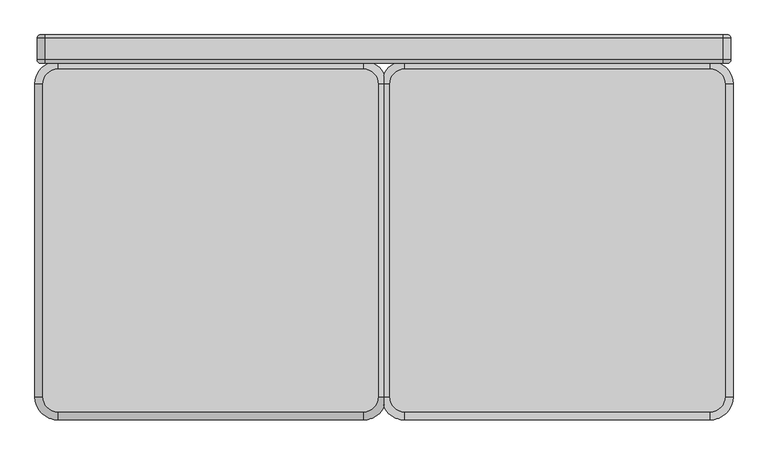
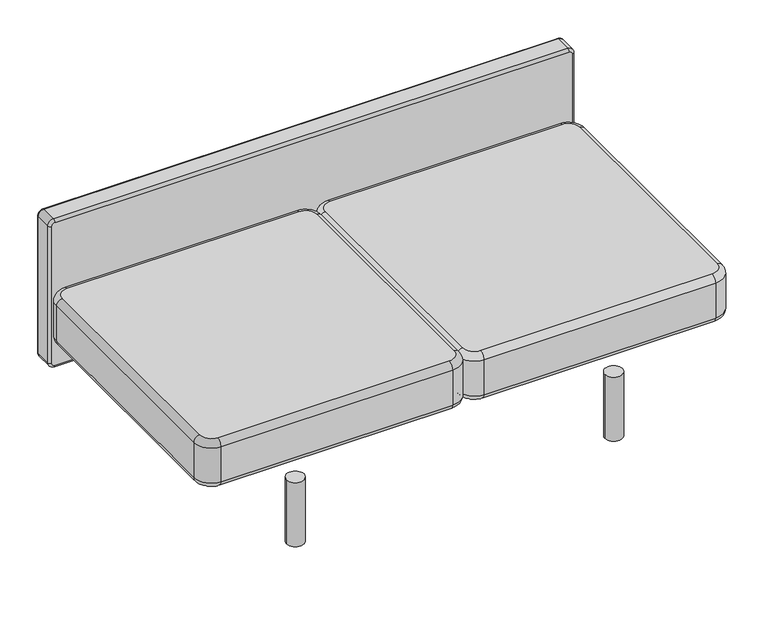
"""IFC4 building model written with IfcOpenShell, lengths in millimetres: furniture geometry, Fredericia - EJ220 Sofa 2 seater 76 - 2042 : Fredericia - EJ220 Sofa 2 seater 76 - 2042."""

import ifcopenshell
import ifcopenshell.guid

model = None  # the IFC model being written
_history = None  # IfcOwnerHistory: only IFC2X3 demands one
_inside = {}  # id of a spatial element -> (the spatial element, [elements in it])
_under = {}  # id of a project, library or spatial element -> (it, [spatial elements below it])
_declared = {}  # id of a project -> (the project, [libraries it declares])
_typed = {}  # id of a type object -> (the type object, [elements of that type])
_made_of = {}  # id of a material, layer set ... -> (it, [elements and type objects made of it])


def new_model(schema):
    """Start an empty IFC model of exactly this schema.

    Asked for "IFC4X3", IfcOpenShell would pick the latest addendum, in which some entities
    have other attributes; the version numbers below select the first issue.
    IFC2X3 requires an IfcOwnerHistory on every rooted entity: one is made here for all.
    """
    global model, _history
    if schema == "IFC4X3":
        model = ifcopenshell.file(schema_version=(4, 3, 0, 0))
    else:
        model = ifcopenshell.file(schema=schema)
    _inside.clear()
    _under.clear()
    _declared.clear()
    _typed.clear()
    _made_of.clear()
    _history = None
    if model.schema == "IFC2X3":
        org = make("IfcOrganization", Name="unknown")
        user = make(
            "IfcPersonAndOrganization",
            ThePerson=make("IfcPerson", FamilyName="unknown"),
            TheOrganization=org,
        )
        app = make(
            "IfcApplication",
            ApplicationDeveloper=org,
            Version="unknown",
            ApplicationFullName="unknown",
            ApplicationIdentifier="unknown",
        )
        _history = make(
            "IfcOwnerHistory",
            OwningUser=user,
            OwningApplication=app,
            ChangeAction="ADDED",
            CreationDate=0,
        )
    return model


def make(cls, **values):
    """One entity of the class cls with the attributes given. An attribute that is None is left unset."""
    return model.create_entity(
        cls, **{name: value for name, value in values.items() if value is not None}
    )


def rooted(cls, **values):
    """An entity with a GlobalId (a new one), such as an element, a storey or a relation."""
    return make(cls, GlobalId=ifcopenshell.guid.new(), OwnerHistory=_history, **values)


def si_unit(unit_type, name, prefix=None):
    """IfcSIUnit, for example si_unit("LENGTHUNIT", "METRE", prefix="MILLI")."""
    return make("IfcSIUnit", UnitType=unit_type, Prefix=prefix, Name=name)


def assignment(units):
    """IfcUnitAssignment: the units of a project."""
    return None if units is None else make("IfcUnitAssignment", Units=units)


def point(xyz):
    """IfcCartesianPoint."""
    return None if xyz is None else make("IfcCartesianPoint", Coordinates=xyz)


def direction(xyz):
    """IfcDirection."""
    return None if xyz is None else make("IfcDirection", DirectionRatios=xyz)


def frame(location, z_axis=None, x_axis=None):
    """IfcAxis2Placement3D, a coordinate frame: its origin and axes. An axis left out is left unset."""
    return make(
        "IfcAxis2Placement3D",
        Location=point(location),
        Axis=direction(z_axis),
        RefDirection=direction(x_axis),
    )


def frame_2d(location, x_axis=None):
    """IfcAxis2Placement2D, a coordinate frame in the plane: its origin and x axis."""
    return make(
        "IfcAxis2Placement2D", Location=point(location), RefDirection=direction(x_axis)
    )


def origin():
    """The frame at (0, 0, 0) with its axes left unset."""
    return frame((0.0, 0.0, 0.0))


def origin_with_axes():
    """The frame at (0, 0, 0) with the z axis (0, 0, 1) and the x axis (1, 0, 0) written out."""
    return frame((0.0, 0.0, 0.0), z_axis=(0.0, 0.0, 1.0), x_axis=(1.0, 0.0, 0.0))


def place(relative_to, where):
    """IfcLocalPlacement: puts the frame where relative to a parent placement (None: the world)."""
    return make(
        "IfcLocalPlacement", PlacementRelTo=relative_to, RelativePlacement=where
    )


def context(
    kind, dimensions, precision=None, world=None, true_north=None, identifier=None
):
    """IfcGeometricRepresentationContext, for example the 3D "Model" context."""
    return make(
        "IfcGeometricRepresentationContext",
        ContextIdentifier=identifier,
        ContextType=kind,
        CoordinateSpaceDimension=dimensions,
        Precision=precision,
        WorldCoordinateSystem=world,
        TrueNorth=true_north,
    )


def project(units=None, contexts=None):
    """IfcProject with its units and contexts."""
    return rooted(
        "IfcProject",
        Name="project",
        RepresentationContexts=contexts,
        UnitsInContext=assignment(units),
    )


def spatial(cls, under=None, at=None, **own):
    """A site, building, storey or space (cls), placed at a placement, below another one or the project."""
    s = rooted(cls, ObjectPlacement=at, **own)
    if under is not None:
        _under.setdefault(under.id(), (under, []))[1].append(s)
    return s


def circle_curve(where, radius):
    """IfcCircle in the frame where."""
    return make("IfcCircle", Position=where, Radius=radius)


def ellipse_curve(where, semi_axis1, semi_axis2):
    """IfcEllipse in the frame where."""
    return make(
        "IfcEllipse", Position=where, SemiAxis1=semi_axis1, SemiAxis2=semi_axis2
    )


def trimmed(basis, trim1, trim2, sense, master):
    """IfcTrimmedCurve: the piece of a basis curve between two trims."""
    return make(
        "IfcTrimmedCurve",
        BasisCurve=basis,
        Trim1=trim1,
        Trim2=trim2,
        SenseAgreement=sense,
        MasterRepresentation=master,
    )


def segment(curve, same_sense, transition):
    """IfcCompositeCurveSegment."""
    return make(
        "IfcCompositeCurveSegment",
        Transition=transition,
        SameSense=same_sense,
        ParentCurve=curve,
    )


def composite_curve(segments, self_intersect=None):
    """IfcCompositeCurve: segments joined end to end."""
    return make("IfcCompositeCurve", Segments=segments, SelfIntersect=self_intersect)


def outline(outer, holes=None, kind="AREA"):
    """IfcArbitraryClosedProfileDef: a profile drawn as a closed curve; with holes, ...WithVoids."""
    if holes is None:
        return make("IfcArbitraryClosedProfileDef", ProfileType=kind, OuterCurve=outer)
    return make(
        "IfcArbitraryProfileDefWithVoids",
        ProfileType=kind,
        OuterCurve=outer,
        InnerCurves=holes,
    )


def extrude(swept, where, along, depth):
    """IfcExtrudedAreaSolid: the profile swept, set in the frame where, extruded along a direction by depth."""
    return make(
        "IfcExtrudedAreaSolid",
        SweptArea=swept,
        Position=where,
        ExtrudedDirection=direction(along),
        Depth=depth,
    )


def shape(context_of_items, identifier, shape_type, items):
    """IfcShapeRepresentation: the items that make up one representation, for example the "Body"."""
    return make(
        "IfcShapeRepresentation",
        ContextOfItems=context_of_items,
        RepresentationIdentifier=identifier,
        RepresentationType=shape_type,
        Items=items,
    )


def source(mapping_origin, context_of_items, identifier, shape_type, items):
    """IfcRepresentationMap: a shape defined once, which mapped items show again and again."""
    return make(
        "IfcRepresentationMap",
        MappingOrigin=mapping_origin,
        MappedRepresentation=shape(context_of_items, identifier, shape_type, items),
    )


def transform(
    local_origin,
    x_axis=None,
    y_axis=None,
    z_axis=None,
    scale=None,
    scale2=None,
    scale3=None,
    uniform=True,
):
    """IfcCartesianTransformationOperator3D, or its non-uniform kind. x_axis, y_axis, z_axis: its Axis1, 2, 3."""
    if uniform:
        return make(
            "IfcCartesianTransformationOperator3D",
            Axis1=direction(x_axis),
            Axis2=direction(y_axis),
            LocalOrigin=point(local_origin),
            Scale=scale,
            Axis3=direction(z_axis),
        )
    return make(
        "IfcCartesianTransformationOperator3DnonUniform",
        Axis1=direction(x_axis),
        Axis2=direction(y_axis),
        LocalOrigin=point(local_origin),
        Scale=scale,
        Axis3=direction(z_axis),
        Scale2=scale2,
        Scale3=scale3,
    )


def mapped(mapping_source, mapping_target):
    """IfcMappedItem: shows the shape of a source again, moved by a transform."""
    return make(
        "IfcMappedItem", MappingSource=mapping_source, MappingTarget=mapping_target
    )


def made_of(thing, what):
    """Note that an element or type object is made of a material, layer set ...; save() writes the relation."""
    if what is not None:
        _made_of.setdefault(what.id(), (what, []))[1].append(thing)
    return thing


def element(
    cls,
    number,
    at=None,
    inside=None,
    cuts=None,
    type_object=None,
    material=None,
    context=None,
    identifier="Body",
    shape_type=None,
    held_by="IfcProductDefinitionShape",
    body=None,
    shapes=None,
    **own,
):
    """One element of the class cls, such as IfcWall. Its Tag is "e" and its number.

    at: its placement. inside: the storey or other place that contains it. cuts: it is an
    opening in that element (IfcRelVoidsElement). A single representation is given by context,
    identifier, shape_type and body (its items); several are given by shapes. held_by: the class
    of the entity that holds the representations. save() writes the other relations.
    """
    e = rooted(cls, Tag="e%d" % number, ObjectPlacement=at, **own)
    if body is not None:
        shapes = [shape(context, identifier, shape_type, body)]
    if shapes is not None:
        e.Representation = make(held_by, Representations=shapes)
    if inside is not None:
        _inside.setdefault(inside.id(), (inside, []))[1].append(e)
    if cuts is not None:
        rooted(
            "IfcRelVoidsElement", RelatingBuildingElement=cuts, RelatedOpeningElement=e
        )
    if type_object is not None:
        _typed.setdefault(type_object.id(), (type_object, []))[1].append(e)
    return made_of(e, material)


def aggregate(whole, parts):
    """IfcRelAggregates: a whole, such as a stair, and the parts it consists of."""
    return rooted("IfcRelAggregates", RelatingObject=whole, RelatedObjects=parts)


def save(model, path):
    """Write the relations noted so far, then the file.

    IfcRelAggregates (storeys below a building ...), IfcRelContainedInSpatialStructure (elements
    in a storey), IfcRelDefinesByType, IfcRelAssociatesMaterial and IfcRelDeclares: one each for
    every whole, place, type object, material and project.
    """
    for whole, parts in _under.values():
        aggregate(whole, parts)
    for where, things in _inside.values():
        rooted(
            "IfcRelContainedInSpatialStructure",
            RelatedElements=things,
            RelatingStructure=where,
        )
    for kind, things in _typed.values():
        rooted("IfcRelDefinesByType", RelatedObjects=things, RelatingType=kind)
    for what, things in _made_of.values():
        rooted("IfcRelAssociatesMaterial", RelatedObjects=things, RelatingMaterial=what)
    for by, libraries in _declared.values():
        rooted("IfcRelDeclares", RelatingContext=by, RelatedDefinitions=libraries)
    model.write(path)


def plane_surface(at):
    """IfcPlane: the flat surface through the origin of the frame at, square to its z axis."""
    return make("IfcPlane", Position=at)


def cylinder_surface(at, radius):
    """IfcCylindricalSurface: all points at the distance radius from the z axis of the frame at."""
    return make("IfcCylindricalSurface", Position=at, Radius=radius)


def revolved_surface(curve, axis_point, axis_direction):
    """IfcSurfaceOfRevolution: the curve turned about the line through axis_point along axis_direction."""
    return make(
        "IfcSurfaceOfRevolution",
        SweptCurve=make("IfcArbitraryOpenProfileDef", ProfileType="CURVE", Curve=curve),
        AxisPosition=make("IfcAxis1Placement", Location=point(axis_point), Axis=direction(axis_direction)),
    )


def advanced_brep(points, edges, surfaces, faces):
    """IfcAdvancedBrep: a solid bounded by faces that lie on surfaces and meet in shared edges.

    An edge is (start, end): straight between two places in points (the first is 0);
    or (start, end, curve); or (start, end, curve, False) where it runs against its curve.
    A face is (place in surfaces, loops), or (place, loops, False) where it looks against
    its surface's normal. A loop lists edges by number (the first is 1), with a minus sign
    where the edge is run from its end to its start. The first loop is the outer one.
    """
    corners = [point(p) for p in points]
    vertices = [make("IfcVertexPoint", VertexGeometry=c) for c in corners]
    made = []
    for start, end, *more in edges:
        made.append(
            make(
                "IfcEdgeCurve",
                EdgeStart=vertices[start],
                EdgeEnd=vertices[end],
                EdgeGeometry=more[0] if more else make("IfcPolyline", Points=[corners[start], corners[end]]),
                SameSense=more[1] if len(more) > 1 else True,
            )
        )
    hull = []
    for where, loops, *sense in faces:
        bounds = []
        for j, loop in enumerate(loops):
            ring = [make("IfcOrientedEdge", EdgeElement=made[abs(k) - 1], Orientation=k > 0) for k in loop]
            bounds.append(
                make(
                    "IfcFaceOuterBound" if j == 0 else "IfcFaceBound",
                    Bound=make("IfcEdgeLoop", EdgeList=ring),
                    Orientation=True,
                )
            )
        hull.append(make("IfcAdvancedFace", Bounds=bounds, FaceSurface=surfaces[where], SameSense=sense[0] if sense else True))
    return make("IfcAdvancedBrep", Outer=make("IfcClosedShell", CfsFaces=hull))


def furniture_254e2627(model_context):
    return source(origin(), model_context, "Body", "SolidModel", [
        advanced_brep(
        [(736.1484253, 743.0641303, 290.0), (736.1484253, 67.7, 290.0), (703.4806054, 35.0321801, 290.0), (45.0, 35.0321801, 290.0), (12.3321801, 67.7, 290.0), (12.3321801, 743.0641303, 290.0), (45.0, 775.7319503, 290.0), (703.4806054, 775.7319503, 290.0), (736.1484253, 67.7, 429.8211901), (736.1484253, 743.0641303, 429.8211901), (703.4806054, 775.7319503, 429.8211901), (45.0, 775.7319503, 429.8211901), (12.3321801, 743.0641303, 429.8211901), (12.3321801, 67.7, 429.8211901), (45.0, 35.0321801, 429.8211901), (703.4806054, 35.0321801, 429.8211901), (753.4806054, 743.0641303, 307.3273289), (753.4806054, 743.0641303, 412.4890101), (753.4806054, 67.7, 412.4890101), (753.4806054, 67.7, 307.3273289), (703.4806054, 17.7, 307.3273289), (703.4806054, 17.7, 412.4890101), (45.0, 17.7, 412.4890101), (45.0, 17.7, 307.3273289), (-5.0, 67.7, 307.3273289), (-5.0, 67.7, 412.4890101), (-5.0, 743.0641303, 412.4890101), (-5.0, 743.0641303, 307.3273289), (45.0, 793.0641303, 307.3273289), (45.0, 793.0641303, 412.4890101), (703.4806054, 793.0641303, 412.4890101), (703.4806054, 793.0641303, 307.3273289)],
        [
            (0, 1),
            (1, 2, circle_curve(frame((703.4806054, 67.7, 290.0), z_axis=(0.0, 0.0, -1.0), x_axis=(1.0, 0.0, 0.0)), 32.6678199)),
            (2, 3),
            (3, 4, circle_curve(frame((45.0, 67.7, 290.0), z_axis=(0.0, 0.0, -1.0), x_axis=(0.0, -1.0, 0.0)), 32.6678199)),
            (4, 5),
            (5, 6, circle_curve(frame((45.0, 743.0641303, 290.0), z_axis=(0.0, 0.0, -1.0), x_axis=(-1.0, 0.0, 0.0)), 32.6678199)),
            (6, 7),
            (7, 0, circle_curve(frame((703.4806054, 743.0641303, 290.0), z_axis=(0.0, 0.0, -1.0), x_axis=(0.0, 1.0, 0.0)), 32.6678199)),
            (8, 9),
            (9, 10, circle_curve(frame((703.4806054, 743.0641303, 429.8211901), z_axis=(0.0, 0.0, 1.0), x_axis=(0.0, 1.0, 0.0)), 32.6678199)),
            (10, 11),
            (11, 12, circle_curve(frame((45.0, 743.0641303, 429.8211901), z_axis=(0.0, 0.0, 1.0), x_axis=(-1.0, 0.0, 0.0)), 32.6678199)),
            (12, 13),
            (13, 14, circle_curve(frame((45.0, 67.7, 429.8211901), z_axis=(0.0, 0.0, 1.0), x_axis=(0.0, -1.0, 0.0)), 32.6678199)),
            (14, 15),
            (15, 8, circle_curve(frame((703.4806054, 67.7, 429.8211901), z_axis=(0.0, 0.0, 1.0), x_axis=(1.0, 0.0, 0.0)), 32.6678199)),
            (16, 17),
            (17, 18),
            (18, 19),
            (19, 16),
            (20, 21),
            (21, 22),
            (22, 23),
            (23, 20),
            (24, 25),
            (25, 26),
            (26, 27),
            (27, 24),
            (28, 29),
            (29, 30),
            (30, 31),
            (31, 28),
            (19, 1, circle_curve(frame((736.1484253, 67.7, 307.3273289), z_axis=(0.0, 1.0, 0.0), x_axis=(-1.0, 0.0, 0.0)), 17.3321801)),
            (0, 16, circle_curve(frame((736.1484253, 743.0641303, 307.3273289), z_axis=(0.0, -1.0, 0.0), x_axis=(-1.0, 0.0, 0.0)), 17.3321801)),
            (17, 9, circle_curve(frame((736.1484253, 743.0641303, 412.4890101), z_axis=(0.0, -1.0, 0.0), x_axis=(-1.0, 0.0, 0.0)), 17.3321801)),
            (8, 18, circle_curve(frame((736.1484253, 67.7, 412.4890101), z_axis=(0.0, 1.0, 0.0), x_axis=(-1.0, 0.0, 0.0)), 17.3321801)),
            (23, 3, circle_curve(frame((45.0, 35.0321801, 307.3273289), z_axis=(1.0, 0.0, 0.0), x_axis=(0.0, 1.0, 0.0)), 17.3321801)),
            (2, 20, circle_curve(frame((703.4806054, 35.0321801, 307.3273289), z_axis=(-1.0, 0.0, 0.0), x_axis=(0.0, 1.0, 0.0)), 17.3321801)),
            (21, 15, circle_curve(frame((703.4806054, 35.0321801, 412.4890101), z_axis=(-1.0, 0.0, 0.0), x_axis=(0.0, 1.0, 0.0)), 17.3321801)),
            (14, 22, circle_curve(frame((45.0, 35.0321801, 412.4890101), z_axis=(1.0, 0.0, 0.0), x_axis=(0.0, 1.0, 0.0)), 17.3321801)),
            (27, 5, circle_curve(frame((12.3321801, 743.0641303, 307.3273289), z_axis=(0.0, -1.0, 0.0), x_axis=(1.0, 0.0, 0.0)), 17.3321801)),
            (4, 24, circle_curve(frame((12.3321801, 67.7, 307.3273289), z_axis=(0.0, 1.0, 0.0), x_axis=(1.0, 0.0, 0.0)), 17.3321801)),
            (25, 13, circle_curve(frame((12.3321801, 67.7, 412.4890101), z_axis=(0.0, 1.0, 0.0), x_axis=(1.0, 0.0, 0.0)), 17.3321801)),
            (12, 26, circle_curve(frame((12.3321801, 743.0641303, 412.4890101), z_axis=(0.0, -1.0, 0.0), x_axis=(1.0, 0.0, 0.0)), 17.3321801)),
            (31, 7, circle_curve(frame((703.4806054, 775.7319503, 307.3273289), z_axis=(-1.0, 0.0, 0.0), x_axis=(0.0, -1.0, 0.0)), 17.3321801)),
            (6, 28, circle_curve(frame((45.0, 775.7319503, 307.3273289), z_axis=(1.0, 0.0, 0.0), x_axis=(0.0, -1.0, 0.0)), 17.3321801)),
            (29, 11, circle_curve(frame((45.0, 775.7319503, 412.4890101), z_axis=(1.0, 0.0, 0.0), x_axis=(0.0, -1.0, 0.0)), 17.3321801)),
            (10, 30, circle_curve(frame((703.4806054, 775.7319503, 412.4890101), z_axis=(-1.0, 0.0, 0.0), x_axis=(0.0, -1.0, 0.0)), 17.3321801)),
            (31, 16, circle_curve(frame((703.4806054, 743.0641303, 307.3273289), z_axis=(0.0, 0.0, -1.0), x_axis=(0.0, 1.0, 0.0)), 50.0)),
            (30, 17, circle_curve(frame((703.4806054, 743.0641303, 412.4890101), z_axis=(0.0, 0.0, -1.0), x_axis=(0.0, 1.0, 0.0)), 50.0)),
            (19, 20, circle_curve(frame((703.4806054, 67.7, 307.3273289), z_axis=(0.0, 0.0, -1.0), x_axis=(1.0, 0.0, 0.0)), 50.0)),
            (18, 21, circle_curve(frame((703.4806054, 67.7, 412.4890101), z_axis=(0.0, 0.0, -1.0), x_axis=(1.0, 0.0, 0.0)), 50.0)),
            (23, 24, circle_curve(frame((45.0, 67.7, 307.3273289), z_axis=(0.0, 0.0, -1.0), x_axis=(0.0, -1.0, 0.0)), 50.0)),
            (22, 25, circle_curve(frame((45.0, 67.7, 412.4890101), z_axis=(0.0, 0.0, -1.0), x_axis=(0.0, -1.0, 0.0)), 50.0)),
            (27, 28, circle_curve(frame((45.0, 743.0641303, 307.3273289), z_axis=(0.0, 0.0, -1.0), x_axis=(-1.0, 0.0, 0.0)), 50.0)),
            (26, 29, circle_curve(frame((45.0, 743.0641303, 412.4890101), z_axis=(0.0, 0.0, -1.0), x_axis=(-1.0, 0.0, 0.0)), 50.0)),
        ],
        [
            plane_surface(frame((673.4806054, 67.7, 290.0), z_axis=(0.0, 0.0, -1.0), x_axis=(0.0, 1.0, 0.0))),
            plane_surface(frame((673.4806054, 67.7, 429.8211901), z_axis=(0.0, 0.0, 1.0), x_axis=(0.0, -1.0, 0.0))),
            plane_surface(frame((753.4806054, 743.0641303, 412.4890101), z_axis=(1.0, 0.0, 0.0), x_axis=(0.0, -1.0, 0.0))),
            plane_surface(frame((703.4806054, 17.7, 412.4890101), z_axis=(0.0, -1.0, 0.0), x_axis=(-1.0, 0.0, 0.0))),
            plane_surface(frame((-5.0, 67.7, 412.4890101), z_axis=(-1.0, 0.0, 0.0), x_axis=(0.0, 1.0, 0.0))),
            plane_surface(frame((45.0, 793.0641303, 412.4890101), z_axis=(0.0, 1.0, 0.0), x_axis=(1.0, 0.0, 0.0))),
            cylinder_surface(frame((736.1484253, 743.0641303, 307.3273289), z_axis=(0.0, 1.0, 0.0), x_axis=(-1.0, 0.0, 0.0)), 17.3321801),
            cylinder_surface(frame((736.1484253, 743.0641303, 412.4890101), z_axis=(0.0, 1.0, 0.0), x_axis=(-1.0, 0.0, 0.0)), 17.3321801),
            cylinder_surface(frame((703.4806054, 35.0321801, 307.3273289), z_axis=(1.0, 0.0, 0.0), x_axis=(0.0, 1.0, 0.0)), 17.3321801),
            cylinder_surface(frame((703.4806054, 35.0321801, 412.4890101), z_axis=(1.0, 0.0, 0.0), x_axis=(0.0, 1.0, 0.0)), 17.3321801),
            cylinder_surface(frame((12.3321801, 67.7, 307.3273289), z_axis=(0.0, -1.0, 0.0), x_axis=(1.0, 0.0, 0.0)), 17.3321801),
            cylinder_surface(frame((12.3321801, 67.7, 412.4890101), z_axis=(0.0, -1.0, 0.0), x_axis=(1.0, 0.0, 0.0)), 17.3321801),
            cylinder_surface(frame((45.0, 775.7319503, 307.3273289), z_axis=(-1.0, 0.0, 0.0), x_axis=(0.0, -1.0, 0.0)), 17.3321801),
            cylinder_surface(frame((45.0, 775.7319503, 412.4890101), z_axis=(-1.0, 0.0, 0.0), x_axis=(0.0, -1.0, 0.0)), 17.3321801),
            revolved_surface(trimmed(ellipse_curve(frame((703.4806054, 775.7319503, 307.3273289), z_axis=(-1.0, 0.0, 0.0), x_axis=(0.0, -1.0, 0.0)), 17.3321801, 17.3321801), [point((703.4806054, 793.0641303, 307.3273289))], [point((703.4806054, 775.7319503, 289.9951488))], True, "CARTESIAN"), (703.4806054, 743.0641303, 474.7169816), (0.0, 0.0, -1.0)),
            cylinder_surface(frame((703.4806054, 743.0641303, 474.7169816), z_axis=(0.0, 0.0, -1.0), x_axis=(0.0, 1.0, 0.0)), 50.0),
            revolved_surface(trimmed(ellipse_curve(frame((703.4806054, 775.7319503, 412.4890101), z_axis=(-1.0, 0.0, 0.0), x_axis=(0.0, -1.0, 0.0)), 17.3321801, 17.3321801), [point((703.4806054, 775.7319503, 429.8211901))], [point((703.4806054, 793.0641303, 412.4890101))], True, "CARTESIAN"), (703.4806054, 743.0641303, 474.7169816), (0.0, 0.0, -1.0)),
            revolved_surface(trimmed(ellipse_curve(frame((736.1484253, 67.7, 307.3273289), z_axis=(0.0, 1.0, 0.0), x_axis=(-1.0, 0.0, 0.0)), 17.3321801, 17.3321801), [point((753.4806054, 67.7, 307.3273289))], [point((736.1484253, 67.7, 289.9951488))], True, "CARTESIAN"), (703.4806054, 67.7, 474.7169816), (0.0, 0.0, -1.0)),
            cylinder_surface(frame((703.4806054, 67.7, 474.7169816), z_axis=(0.0, 0.0, -1.0), x_axis=(1.0, 0.0, 0.0)), 50.0),
            revolved_surface(trimmed(ellipse_curve(frame((736.1484253, 67.7, 412.4890101), z_axis=(0.0, 1.0, 0.0), x_axis=(-1.0, 0.0, 0.0)), 17.3321801, 17.3321801), [point((736.1484253, 67.7, 429.8211901))], [point((753.4806054, 67.7, 412.4890101))], True, "CARTESIAN"), (703.4806054, 67.7, 474.7169816), (0.0, 0.0, -1.0)),
            revolved_surface(trimmed(ellipse_curve(frame((45.0, 35.0321801, 307.3273289), z_axis=(1.0, 0.0, 0.0), x_axis=(0.0, 1.0, 0.0)), 17.3321801, 17.3321801), [point((45.0, 17.7, 307.3273289))], [point((45.0, 35.0321801, 289.9951488))], True, "CARTESIAN"), (45.0, 67.7, 474.7169816), (0.0, 0.0, -1.0)),
            cylinder_surface(frame((45.0, 67.7, 474.7169816), z_axis=(0.0, 0.0, -1.0), x_axis=(0.0, -1.0, 0.0)), 50.0),
            revolved_surface(trimmed(ellipse_curve(frame((45.0, 35.0321801, 412.4890101), z_axis=(1.0, 0.0, 0.0), x_axis=(0.0, 1.0, 0.0)), 17.3321801, 17.3321801), [point((45.0, 35.0321801, 429.8211901))], [point((45.0, 17.7, 412.4890101))], True, "CARTESIAN"), (45.0, 67.7, 474.7169816), (0.0, 0.0, -1.0)),
            revolved_surface(trimmed(ellipse_curve(frame((12.3321801, 743.0641303, 307.3273289), z_axis=(0.0, -1.0, 0.0), x_axis=(1.0, 0.0, 0.0)), 17.3321801, 17.3321801), [point((-5.0, 743.0641303, 307.3273289))], [point((12.3321801, 743.0641303, 289.9951488))], True, "CARTESIAN"), (45.0, 743.0641303, 474.7169816), (0.0, 0.0, -1.0)),
            cylinder_surface(frame((45.0, 743.0641303, 474.7169816), z_axis=(0.0, 0.0, -1.0), x_axis=(-1.0, 0.0, 0.0)), 50.0),
            revolved_surface(trimmed(ellipse_curve(frame((12.3321801, 743.0641303, 412.4890101), z_axis=(0.0, -1.0, 0.0), x_axis=(1.0, 0.0, 0.0)), 17.3321801, 17.3321801), [point((12.3321801, 743.0641303, 429.8211901))], [point((-5.0, 743.0641303, 412.4890101))], True, "CARTESIAN"), (45.0, 743.0641303, 474.7169816), (0.0, 0.0, -1.0)),
        ],
        [
            (0, [[1, 2, 3, 4, 5, 6, 7, 8]]),
            (1, [[9, 10, 11, 12, 13, 14, 15, 16]]),
            (2, [[17, 18, 19, 20]]),
            (3, [[21, 22, 23, 24]]),
            (4, [[25, 26, 27, 28]]),
            (5, [[29, 30, 31, 32]]),
            (6, [[-20, 33, -1, 34]]),
            (7, [[-18, 35, -9, 36]]),
            (8, [[-24, 37, -3, 38]]),
            (9, [[-22, 39, -15, 40]]),
            (10, [[-28, 41, -5, 42]]),
            (11, [[-26, 43, -13, 44]]),
            (12, [[-32, 45, -7, 46]]),
            (13, [[-30, 47, -11, 48]]),
            (14, [[-34, -8, -45, 49]]),
            (15, [[-17, -49, -31, 50]]),
            (16, [[-35, -50, -48, -10]]),
            (17, [[-33, 51, -38, -2]]),
            (18, [[-19, 52, -21, -51]]),
            (19, [[-36, -16, -39, -52]]),
            (20, [[-37, 53, -42, -4]]),
            (21, [[-23, 54, -25, -53]]),
            (22, [[-40, -14, -43, -54]]),
            (23, [[-41, 55, -46, -6]]),
            (24, [[-27, 56, -29, -55]]),
            (25, [[-44, -12, -47, -56]]),
        ],
    ),
        advanced_brep(
        [(-736.1484253, 67.7, 290.0), (-736.1484253, 743.0641303, 290.0), (-703.4806054, 775.7319503, 290.0), (-45.0, 775.7319503, 290.0), (-12.3321801, 743.0641303, 290.0), (-12.3321801, 67.7, 290.0), (-45.0, 35.0321801, 290.0), (-703.4806054, 35.0321801, 290.0), (-736.1484253, 743.0641303, 429.8211901), (-736.1484253, 67.7, 429.8211901), (-703.4806054, 35.0321801, 429.8211901), (-45.0, 35.0321801, 429.8211901), (-12.3321801, 67.7, 429.8211901), (-12.3321801, 743.0641303, 429.8211901), (-45.0, 775.7319503, 429.8211901), (-703.4806054, 775.7319503, 429.8211901), (-753.4806054, 743.0641303, 412.4890101), (-753.4806054, 743.0641303, 307.3273289), (-753.4806054, 67.7, 307.3273289), (-753.4806054, 67.7, 412.4890101), (-703.4806054, 17.7, 412.4890101), (-703.4806054, 17.7, 307.3273289), (-45.0, 17.7, 307.3273289), (-45.0, 17.7, 412.4890101), (5.0, 67.7, 412.4890101), (5.0, 67.7, 307.3273289), (5.0, 743.0641303, 307.3273289), (5.0, 743.0641303, 412.4890101), (-45.0, 793.0641303, 412.4890101), (-45.0, 793.0641303, 307.3273289), (-703.4806054, 793.0641303, 307.3273289), (-703.4806054, 793.0641303, 412.4890101)],
        [
            (0, 1),
            (1, 2, circle_curve(frame((-703.4806054, 743.0641303, 290.0), z_axis=(0.0, 0.0, -1.0), x_axis=(0.0, 1.0, 0.0)), 32.6678199)),
            (2, 3),
            (3, 4, circle_curve(frame((-45.0, 743.0641303, 290.0), z_axis=(0.0, 0.0, -1.0), x_axis=(1.0, 0.0, 0.0)), 32.6678199)),
            (4, 5),
            (5, 6, circle_curve(frame((-45.0, 67.7, 290.0), z_axis=(0.0, 0.0, -1.0), x_axis=(0.0, -1.0, 0.0)), 32.6678199)),
            (6, 7),
            (7, 0, circle_curve(frame((-703.4806054, 67.7, 290.0), z_axis=(0.0, 0.0, -1.0), x_axis=(-1.0, 0.0, 0.0)), 32.6678199)),
            (8, 9),
            (9, 10, circle_curve(frame((-703.4806054, 67.7, 429.8211901), z_axis=(0.0, 0.0, 1.0), x_axis=(-1.0, 0.0, 0.0)), 32.6678199)),
            (10, 11),
            (11, 12, circle_curve(frame((-45.0, 67.7, 429.8211901), z_axis=(0.0, 0.0, 1.0), x_axis=(0.0, -1.0, 0.0)), 32.6678199)),
            (12, 13),
            (13, 14, circle_curve(frame((-45.0, 743.0641303, 429.8211901), z_axis=(0.0, 0.0, 1.0), x_axis=(1.0, 0.0, 0.0)), 32.6678199)),
            (14, 15),
            (15, 8, circle_curve(frame((-703.4806054, 743.0641303, 429.8211901), z_axis=(0.0, 0.0, 1.0), x_axis=(0.0, 1.0, 0.0)), 32.6678199)),
            (16, 17),
            (17, 18),
            (18, 19),
            (19, 16),
            (20, 21),
            (21, 22),
            (22, 23),
            (23, 20),
            (24, 25),
            (25, 26),
            (26, 27),
            (27, 24),
            (28, 29),
            (29, 30),
            (30, 31),
            (31, 28),
            (17, 1, circle_curve(frame((-736.1484253, 743.0641303, 307.3273289), z_axis=(0.0, -1.0, 0.0), x_axis=(1.0, 0.0, 0.0)), 17.3321801)),
            (0, 18, circle_curve(frame((-736.1484253, 67.7, 307.3273289), z_axis=(0.0, 1.0, 0.0), x_axis=(1.0, 0.0, 0.0)), 17.3321801)),
            (19, 9, circle_curve(frame((-736.1484253, 67.7, 412.4890101), z_axis=(0.0, 1.0, 0.0), x_axis=(1.0, 0.0, 0.0)), 17.3321801)),
            (8, 16, circle_curve(frame((-736.1484253, 743.0641303, 412.4890101), z_axis=(0.0, -1.0, 0.0), x_axis=(1.0, 0.0, 0.0)), 17.3321801)),
            (21, 7, circle_curve(frame((-703.4806054, 35.0321801, 307.3273289), z_axis=(1.0, 0.0, 0.0), x_axis=(0.0, 1.0, 0.0)), 17.3321801)),
            (6, 22, circle_curve(frame((-45.0, 35.0321801, 307.3273289), z_axis=(-1.0, 0.0, 0.0), x_axis=(0.0, 1.0, 0.0)), 17.3321801)),
            (23, 11, circle_curve(frame((-45.0, 35.0321801, 412.4890101), z_axis=(-1.0, 0.0, 0.0), x_axis=(0.0, 1.0, 0.0)), 17.3321801)),
            (10, 20, circle_curve(frame((-703.4806054, 35.0321801, 412.4890101), z_axis=(1.0, 0.0, 0.0), x_axis=(0.0, 1.0, 0.0)), 17.3321801)),
            (25, 5, circle_curve(frame((-12.3321801, 67.7, 307.3273289), z_axis=(0.0, 1.0, 0.0), x_axis=(-1.0, 0.0, 0.0)), 17.3321801)),
            (4, 26, circle_curve(frame((-12.3321801, 743.0641303, 307.3273289), z_axis=(0.0, -1.0, 0.0), x_axis=(-1.0, 0.0, 0.0)), 17.3321801)),
            (27, 13, circle_curve(frame((-12.3321801, 743.0641303, 412.4890101), z_axis=(0.0, -1.0, 0.0), x_axis=(-1.0, 0.0, 0.0)), 17.3321801)),
            (12, 24, circle_curve(frame((-12.3321801, 67.7, 412.4890101), z_axis=(0.0, 1.0, 0.0), x_axis=(-1.0, 0.0, 0.0)), 17.3321801)),
            (29, 3, circle_curve(frame((-45.0, 775.7319503, 307.3273289), z_axis=(-1.0, 0.0, 0.0), x_axis=(0.0, -1.0, 0.0)), 17.3321801)),
            (2, 30, circle_curve(frame((-703.4806054, 775.7319503, 307.3273289), z_axis=(1.0, 0.0, 0.0), x_axis=(0.0, -1.0, 0.0)), 17.3321801)),
            (31, 15, circle_curve(frame((-703.4806054, 775.7319503, 412.4890101), z_axis=(1.0, 0.0, 0.0), x_axis=(0.0, -1.0, 0.0)), 17.3321801)),
            (14, 28, circle_curve(frame((-45.0, 775.7319503, 412.4890101), z_axis=(-1.0, 0.0, 0.0), x_axis=(0.0, -1.0, 0.0)), 17.3321801)),
            (17, 30, circle_curve(frame((-703.4806054, 743.0641303, 307.3273289), z_axis=(0.0, 0.0, -1.0), x_axis=(0.0, 1.0, 0.0)), 50.0)),
            (16, 31, circle_curve(frame((-703.4806054, 743.0641303, 412.4890101), z_axis=(0.0, 0.0, -1.0), x_axis=(0.0, 1.0, 0.0)), 50.0)),
            (21, 18, circle_curve(frame((-703.4806054, 67.7, 307.3273289), z_axis=(0.0, 0.0, -1.0), x_axis=(-1.0, 0.0, 0.0)), 50.0)),
            (20, 19, circle_curve(frame((-703.4806054, 67.7, 412.4890101), z_axis=(0.0, 0.0, -1.0), x_axis=(-1.0, 0.0, 0.0)), 50.0)),
            (25, 22, circle_curve(frame((-45.0, 67.7, 307.3273289), z_axis=(0.0, 0.0, -1.0), x_axis=(0.0, -1.0, 0.0)), 50.0)),
            (24, 23, circle_curve(frame((-45.0, 67.7, 412.4890101), z_axis=(0.0, 0.0, -1.0), x_axis=(0.0, -1.0, 0.0)), 50.0)),
            (29, 26, circle_curve(frame((-45.0, 743.0641303, 307.3273289), z_axis=(0.0, 0.0, -1.0), x_axis=(1.0, 0.0, 0.0)), 50.0)),
            (28, 27, circle_curve(frame((-45.0, 743.0641303, 412.4890101), z_axis=(0.0, 0.0, -1.0), x_axis=(1.0, 0.0, 0.0)), 50.0)),
        ],
        [
            plane_surface(frame((401.9530797, 37.7, 290.0), z_axis=(0.0, 0.0, -1.0), x_axis=(-1.0, 0.0, 0.0))),
            plane_surface(frame((401.9530797, 37.7, 429.8211901), z_axis=(0.0, 0.0, 1.0), x_axis=(1.0, 0.0, 0.0))),
            plane_surface(frame((-753.4806054, 743.0641303, 307.3273289), z_axis=(-1.0, 0.0, 0.0), x_axis=(0.0, -1.0, 0.0))),
            plane_surface(frame((-703.4806054, 17.7, 307.3273289), z_axis=(0.0, -1.0, 0.0), x_axis=(1.0, 0.0, 0.0))),
            plane_surface(frame((5.0, 67.7, 307.3273289), z_axis=(1.0, 0.0, 0.0), x_axis=(0.0, 1.0, 0.0))),
            plane_surface(frame((-45.0, 793.0641303, 307.3273289), z_axis=(0.0, 1.0, 0.0), x_axis=(-1.0, 0.0, 0.0))),
            cylinder_surface(frame((-736.1484253, 743.0641303, 307.3273289), z_axis=(0.0, 1.0, 0.0), x_axis=(1.0, 0.0, 0.0)), 17.3321801),
            cylinder_surface(frame((-736.1484253, 743.0641303, 412.4890101), z_axis=(0.0, 1.0, 0.0), x_axis=(1.0, 0.0, 0.0)), 17.3321801),
            cylinder_surface(frame((-703.4806054, 35.0321801, 307.3273289), z_axis=(-1.0, 0.0, 0.0), x_axis=(0.0, 1.0, 0.0)), 17.3321801),
            cylinder_surface(frame((-703.4806054, 35.0321801, 412.4890101), z_axis=(-1.0, 0.0, 0.0), x_axis=(0.0, 1.0, 0.0)), 17.3321801),
            cylinder_surface(frame((-12.3321801, 67.7, 307.3273289), z_axis=(0.0, -1.0, 0.0), x_axis=(-1.0, 0.0, 0.0)), 17.3321801),
            cylinder_surface(frame((-12.3321801, 67.7, 412.4890101), z_axis=(0.0, -1.0, 0.0), x_axis=(-1.0, 0.0, 0.0)), 17.3321801),
            cylinder_surface(frame((-45.0, 775.7319503, 307.3273289), z_axis=(1.0, 0.0, 0.0), x_axis=(0.0, -1.0, 0.0)), 17.3321801),
            cylinder_surface(frame((-45.0, 775.7319503, 412.4890101), z_axis=(1.0, 0.0, 0.0), x_axis=(0.0, -1.0, 0.0)), 17.3321801),
            revolved_surface(trimmed(ellipse_curve(frame((-703.4806054, 775.7319503, 307.3273289), z_axis=(1.0, 0.0, 0.0), x_axis=(0.0, -1.0, 0.0)), 17.3321801, 17.3321801), [point((-703.4806054, 775.7319503, 289.9951488))], [point((-703.4806054, 793.0641303, 307.3273289))], True, "CARTESIAN"), (-703.4806054, 743.0641303, 474.7169816), (0.0, 0.0, 1.0)),
            cylinder_surface(frame((-703.4806054, 743.0641303, 474.7169816), z_axis=(0.0, 0.0, 1.0), x_axis=(0.0, 1.0, 0.0)), 50.0),
            revolved_surface(trimmed(ellipse_curve(frame((-703.4806054, 775.7319503, 412.4890101), z_axis=(1.0, 0.0, 0.0), x_axis=(0.0, -1.0, 0.0)), 17.3321801, 17.3321801), [point((-703.4806054, 793.0641303, 412.4890101))], [point((-703.4806054, 775.7319503, 429.8211901))], True, "CARTESIAN"), (-703.4806054, 743.0641303, 474.7169816), (0.0, 0.0, 1.0)),
            revolved_surface(trimmed(ellipse_curve(frame((-736.1484253, 67.7, 307.3273289), z_axis=(0.0, 1.0, 0.0), x_axis=(1.0, 0.0, 0.0)), 17.3321801, 17.3321801), [point((-736.1484253, 67.7, 289.9951488))], [point((-753.4806054, 67.7, 307.3273289))], True, "CARTESIAN"), (-703.4806054, 67.7, 474.7169816), (0.0, 0.0, 1.0)),
            cylinder_surface(frame((-703.4806054, 67.7, 474.7169816), z_axis=(0.0, 0.0, 1.0), x_axis=(-1.0, 0.0, 0.0)), 50.0),
            revolved_surface(trimmed(ellipse_curve(frame((-736.1484253, 67.7, 412.4890101), z_axis=(0.0, 1.0, 0.0), x_axis=(1.0, 0.0, 0.0)), 17.3321801, 17.3321801), [point((-753.4806054, 67.7, 412.4890101))], [point((-736.1484253, 67.7, 429.8211901))], True, "CARTESIAN"), (-703.4806054, 67.7, 474.7169816), (0.0, 0.0, 1.0)),
            revolved_surface(trimmed(ellipse_curve(frame((-45.0, 35.0321801, 307.3273289), z_axis=(-1.0, 0.0, 0.0), x_axis=(0.0, 1.0, 0.0)), 17.3321801, 17.3321801), [point((-45.0, 35.0321801, 289.9951488))], [point((-45.0, 17.7, 307.3273289))], True, "CARTESIAN"), (-45.0, 67.7, 474.7169816), (0.0, 0.0, 1.0)),
            cylinder_surface(frame((-45.0, 67.7, 474.7169816), z_axis=(0.0, 0.0, 1.0), x_axis=(0.0, -1.0, 0.0)), 50.0),
            revolved_surface(trimmed(ellipse_curve(frame((-45.0, 35.0321801, 412.4890101), z_axis=(-1.0, 0.0, 0.0), x_axis=(0.0, 1.0, 0.0)), 17.3321801, 17.3321801), [point((-45.0, 17.7, 412.4890101))], [point((-45.0, 35.0321801, 429.8211901))], True, "CARTESIAN"), (-45.0, 67.7, 474.7169816), (0.0, 0.0, 1.0)),
            revolved_surface(trimmed(ellipse_curve(frame((-12.3321801, 743.0641303, 307.3273289), z_axis=(0.0, -1.0, 0.0), x_axis=(-1.0, 0.0, 0.0)), 17.3321801, 17.3321801), [point((-12.3321801, 743.0641303, 289.9951488))], [point((5.0, 743.0641303, 307.3273289))], True, "CARTESIAN"), (-45.0, 743.0641303, 474.7169816), (0.0, 0.0, 1.0)),
            cylinder_surface(frame((-45.0, 743.0641303, 474.7169816), z_axis=(0.0, 0.0, 1.0), x_axis=(1.0, 0.0, 0.0)), 50.0),
            revolved_surface(trimmed(ellipse_curve(frame((-12.3321801, 743.0641303, 412.4890101), z_axis=(0.0, -1.0, 0.0), x_axis=(-1.0, 0.0, 0.0)), 17.3321801, 17.3321801), [point((5.0, 743.0641303, 412.4890101))], [point((-12.3321801, 743.0641303, 429.8211901))], True, "CARTESIAN"), (-45.0, 743.0641303, 474.7169816), (0.0, 0.0, 1.0)),
        ],
        [
            (0, [[1, 2, 3, 4, 5, 6, 7, 8]]),
            (1, [[9, 10, 11, 12, 13, 14, 15, 16]]),
            (2, [[17, 18, 19, 20]]),
            (3, [[21, 22, 23, 24]]),
            (4, [[25, 26, 27, 28]]),
            (5, [[29, 30, 31, 32]]),
            (6, [[-18, 33, -1, 34]]),
            (7, [[-20, 35, -9, 36]]),
            (8, [[-22, 37, -7, 38]]),
            (9, [[-24, 39, -11, 40]]),
            (10, [[-26, 41, -5, 42]]),
            (11, [[-28, 43, -13, 44]]),
            (12, [[-30, 45, -3, 46]]),
            (13, [[-32, 47, -15, 48]]),
            (14, [[-33, 49, -46, -2]]),
            (15, [[-17, 50, -31, -49]]),
            (16, [[-36, -16, -47, -50]]),
            (17, [[-34, -8, -37, 51]]),
            (18, [[-19, -51, -21, 52]]),
            (19, [[-35, -52, -40, -10]]),
            (20, [[-38, -6, -41, 53]]),
            (21, [[-23, -53, -25, 54]]),
            (22, [[-39, -54, -44, -12]]),
            (23, [[-42, -4, -45, 55]]),
            (24, [[-27, -55, -29, 56]]),
            (25, [[-43, -56, -48, -14]]),
        ],
    ),
        extrude(outline(composite_curve([segment(trimmed(circle_curve(frame_2d((-453.2583193, 86.2196986)), 25.0), [point((-428.2583193, 86.2196986))], [point((-478.2583193, 86.2196986))], False, "CARTESIAN"), True, "CONTINUOUS"), segment(trimmed(circle_curve(frame_2d((-453.2583193, 86.2196986)), 25.0), [point((-478.2583193, 86.2196986))], [point((-428.2583193, 86.2196986))], False, "CARTESIAN"), True, "CONTINUOUS")], self_intersect=False)), origin_with_axes(), (0.0, 0.0, 1.0), 192.8),
        extrude(outline(composite_curve([segment(trimmed(circle_curve(frame_2d((-453.2583193, 735.5757348)), 25.0), [point((-428.2583193, 735.5757348))], [point((-478.2583193, 735.5757348))], False, "CARTESIAN"), True, "CONTINUOUS"), segment(trimmed(circle_curve(frame_2d((-453.2583193, 735.5757348)), 25.0), [point((-478.2583193, 735.5757348))], [point((-428.2583193, 735.5757348))], False, "CARTESIAN"), True, "CONTINUOUS")], self_intersect=False)), origin_with_axes(), (0.0, 0.0, 1.0), 192.8),
        extrude(outline(composite_curve([segment(trimmed(circle_curve(frame_2d((453.0099961, 735.5757348)), 25.0), [point((478.0099961, 735.5757348))], [point((428.0099961, 735.5757348))], False, "CARTESIAN"), True, "CONTINUOUS"), segment(trimmed(circle_curve(frame_2d((453.0099961, 735.5757348)), 25.0), [point((428.0099961, 735.5757348))], [point((478.0099961, 735.5757348))], False, "CARTESIAN"), True, "CONTINUOUS")], self_intersect=False)), origin_with_axes(), (0.0, 0.0, 1.0), 192.8),
        extrude(outline(composite_curve([segment(trimmed(circle_curve(frame_2d((453.0099961, 86.3098054)), 25.0), [point((478.0099961, 86.3098054))], [point((428.0099961, 86.3098054))], False, "CARTESIAN"), True, "CONTINUOUS"), segment(trimmed(circle_curve(frame_2d((453.0099961, 86.3098054)), 25.0), [point((428.0099961, 86.3098054))], [point((478.0099961, 86.3098054))], False, "CARTESIAN"), True, "CONTINUOUS")], self_intersect=False)), origin_with_axes(), (0.0, 0.0, 1.0), 192.8),
        advanced_brep(
        [(-740.9806054, 788.0641303, 620.2295429), (-740.9806054, 788.0641303, 209.855155), (-731.3806054, 788.0641303, 200.255155), (731.4177231, 788.0641303, 200.255155), (741.0177231, 788.0641303, 209.855155), (741.0177231, 788.0641303, 620.2295429), (731.4177231, 788.0641303, 629.8295429), (-731.3806054, 788.0641303, 629.8295429), (-740.9806054, 849.5560718, 209.855155), (-740.9806054, 849.5560718, 620.2295429), (-731.3806054, 849.5560718, 629.8295429), (731.4177231, 849.5560718, 629.8295429), (741.0177231, 849.5560718, 620.2295429), (741.0177231, 849.5560718, 209.855155), (731.4177231, 849.5560718, 200.255155), (-731.3806054, 849.5560718, 200.255155), (-748.4806054, 795.5641303, 209.855155), (-748.4806054, 795.5641303, 620.2295429), (-748.4806054, 842.0560718, 620.2295429), (-748.4806054, 842.0560718, 209.855155), (-731.3806054, 795.5641303, 637.3295429), (731.4177231, 795.5641303, 637.3295429), (731.4177231, 842.0560718, 637.3295429), (-731.3806054, 842.0560718, 637.3295429), (748.5177231, 795.5641303, 620.2295429), (748.5177231, 795.5641303, 209.855155), (748.5177231, 842.0560718, 209.855155), (748.5177231, 842.0560718, 620.2295429), (731.4177231, 795.5641303, 192.755155), (-731.3806054, 795.5641303, 192.755155), (-731.3806054, 842.0560718, 192.755155), (731.4177231, 842.0560718, 192.755155)],
        [
            (0, 1),
            (1, 2, circle_curve(frame((-731.3806054, 788.0641303, 209.855155), z_axis=(0.0, -1.0, 0.0), x_axis=(0.0, 0.0, -1.0)), 9.6)),
            (2, 3),
            (3, 4, circle_curve(frame((731.4177231, 788.0641303, 209.855155), z_axis=(0.0, -1.0, 0.0), x_axis=(1.0, 0.0, 0.0)), 9.6)),
            (4, 5),
            (5, 6, circle_curve(frame((731.4177231, 788.0641303, 620.2295429), z_axis=(0.0, -1.0, 0.0), x_axis=(0.0, 0.0, 1.0)), 9.6)),
            (6, 7),
            (7, 0, circle_curve(frame((-731.3806054, 788.0641303, 620.2295429), z_axis=(0.0, -1.0, 0.0), x_axis=(-1.0, 0.0, 0.0)), 9.6)),
            (8, 9),
            (9, 10, circle_curve(frame((-731.3806054, 849.5560718, 620.2295429), z_axis=(0.0, 1.0, 0.0), x_axis=(-1.0, 0.0, 0.0)), 9.6)),
            (10, 11),
            (11, 12, circle_curve(frame((731.4177231, 849.5560718, 620.2295429), z_axis=(0.0, 1.0, 0.0), x_axis=(0.0, 0.0, 1.0)), 9.6)),
            (12, 13),
            (13, 14, circle_curve(frame((731.4177231, 849.5560718, 209.855155), z_axis=(0.0, 1.0, 0.0), x_axis=(1.0, 0.0, 0.0)), 9.6)),
            (14, 15),
            (15, 8, circle_curve(frame((-731.3806054, 849.5560718, 209.855155), z_axis=(0.0, 1.0, 0.0), x_axis=(0.0, 0.0, -1.0)), 9.6)),
            (16, 1, circle_curve(frame((-740.9806054, 795.5641303, 209.855155), z_axis=(0.0, 0.0, 1.0), x_axis=(1.0, 0.0, 0.0)), 7.5)),
            (0, 17, circle_curve(frame((-740.9806054, 795.5641303, 620.2295429), z_axis=(0.0, 0.0, -1.0), x_axis=(1.0, 0.0, 0.0)), 7.5)),
            (17, 16),
            (17, 18),
            (18, 19),
            (19, 16),
            (18, 9, circle_curve(frame((-740.9806054, 842.0560718, 620.2295429), z_axis=(0.0, 0.0, -1.0), x_axis=(1.0, 0.0, 0.0)), 7.5)),
            (8, 19, circle_curve(frame((-740.9806054, 842.0560718, 209.855155), z_axis=(0.0, 0.0, 1.0), x_axis=(1.0, 0.0, 0.0)), 7.5)),
            (20, 7, circle_curve(frame((-731.3806054, 795.5641303, 629.8295429), z_axis=(1.0, 0.0, 0.0), x_axis=(0.0, 0.0, -1.0)), 7.5)),
            (6, 21, circle_curve(frame((731.4177231, 795.5641303, 629.8295429), z_axis=(-1.0, 0.0, 0.0), x_axis=(0.0, 0.0, -1.0)), 7.5)),
            (21, 20),
            (21, 22),
            (22, 23),
            (23, 20),
            (22, 11, circle_curve(frame((731.4177231, 842.0560718, 629.8295429), z_axis=(-1.0, 0.0, 0.0), x_axis=(0.0, 0.0, -1.0)), 7.5)),
            (10, 23, circle_curve(frame((-731.3806054, 842.0560718, 629.8295429), z_axis=(1.0, 0.0, 0.0), x_axis=(0.0, 0.0, -1.0)), 7.5)),
            (24, 5, circle_curve(frame((741.0177231, 795.5641303, 620.2295429), z_axis=(0.0, 0.0, -1.0), x_axis=(-1.0, 0.0, 0.0)), 7.5)),
            (4, 25, circle_curve(frame((741.0177231, 795.5641303, 209.855155), z_axis=(0.0, 0.0, 1.0), x_axis=(-1.0, 0.0, 0.0)), 7.5)),
            (25, 24),
            (25, 26),
            (26, 27),
            (27, 24),
            (26, 13, circle_curve(frame((741.0177231, 842.0560718, 209.855155), z_axis=(0.0, 0.0, 1.0), x_axis=(-1.0, 0.0, 0.0)), 7.5)),
            (12, 27, circle_curve(frame((741.0177231, 842.0560718, 620.2295429), z_axis=(0.0, 0.0, -1.0), x_axis=(-1.0, 0.0, 0.0)), 7.5)),
            (28, 3, circle_curve(frame((731.4177231, 795.5641303, 200.255155), z_axis=(-1.0, 0.0, 0.0), x_axis=(0.0, 0.0, 1.0)), 7.5)),
            (2, 29, circle_curve(frame((-731.3806054, 795.5641303, 200.255155), z_axis=(1.0, 0.0, 0.0), x_axis=(0.0, 0.0, 1.0)), 7.5)),
            (29, 28),
            (29, 30),
            (30, 31),
            (31, 28),
            (30, 15, circle_curve(frame((-731.3806054, 842.0560718, 200.255155), z_axis=(1.0, 0.0, 0.0), x_axis=(0.0, 0.0, 1.0)), 7.5)),
            (14, 31, circle_curve(frame((731.4177231, 842.0560718, 200.255155), z_axis=(-1.0, 0.0, 0.0), x_axis=(0.0, 0.0, 1.0)), 7.5)),
            (16, 29, circle_curve(frame((-731.3806054, 795.5641303, 209.855155), z_axis=(0.0, -1.0, 0.0), x_axis=(0.0, 0.0, -1.0)), 17.1)),
            (19, 30, circle_curve(frame((-731.3806054, 842.0560718, 209.855155), z_axis=(0.0, -1.0, 0.0), x_axis=(0.0, 0.0, -1.0)), 17.1)),
            (20, 17, circle_curve(frame((-731.3806054, 795.5641303, 620.2295429), z_axis=(0.0, -1.0, 0.0), x_axis=(-1.0, 0.0, 0.0)), 17.1)),
            (23, 18, circle_curve(frame((-731.3806054, 842.0560718, 620.2295429), z_axis=(0.0, -1.0, 0.0), x_axis=(-1.0, 0.0, 0.0)), 17.1)),
            (24, 21, circle_curve(frame((731.4177231, 795.5641303, 620.2295429), z_axis=(0.0, -1.0, 0.0), x_axis=(0.0, 0.0, 1.0)), 17.1)),
            (27, 22, circle_curve(frame((731.4177231, 842.0560718, 620.2295429), z_axis=(0.0, -1.0, 0.0), x_axis=(0.0, 0.0, 1.0)), 17.1)),
            (28, 25, circle_curve(frame((731.4177231, 795.5641303, 209.855155), z_axis=(0.0, -1.0, 0.0), x_axis=(1.0, 0.0, 0.0)), 17.1)),
            (31, 26, circle_curve(frame((731.4177231, 842.0560718, 209.855155), z_axis=(0.0, -1.0, 0.0), x_axis=(1.0, 0.0, 0.0)), 17.1)),
        ],
        [
            plane_surface(frame((401.3694773, 788.0641303, 622.3295429), z_axis=(0.0, -1.0, 0.0), x_axis=(-1.0, 0.0, 0.0))),
            plane_surface(frame((401.3694773, 849.5560718, 622.3295429), z_axis=(0.0, 1.0, 0.0), x_axis=(1.0, 0.0, 0.0))),
            cylinder_surface(frame((-740.9806054, 795.5641303, 209.855155), z_axis=(0.0, 0.0, -1.0), x_axis=(1.0, 0.0, 0.0)), 7.5),
            plane_surface(frame((-748.4806054, 795.5641303, 209.855155), z_axis=(-1.0, 0.0, 0.0), x_axis=(0.0, 0.0, 1.0))),
            cylinder_surface(frame((-740.9806054, 842.0560718, 209.855155), z_axis=(0.0, 0.0, -1.0), x_axis=(1.0, 0.0, 0.0)), 7.5),
            cylinder_surface(frame((-731.3806054, 795.5641303, 629.8295429), z_axis=(-1.0, 0.0, 0.0), x_axis=(0.0, 0.0, -1.0)), 7.5),
            plane_surface(frame((-731.3806054, 795.5641303, 637.3295429), z_axis=(0.0, 0.0, 1.0), x_axis=(1.0, 0.0, 0.0))),
            cylinder_surface(frame((-731.3806054, 842.0560718, 629.8295429), z_axis=(-1.0, 0.0, 0.0), x_axis=(0.0, 0.0, -1.0)), 7.5),
            cylinder_surface(frame((741.0177231, 795.5641303, 620.2295429), z_axis=(0.0, 0.0, 1.0), x_axis=(-1.0, 0.0, 0.0)), 7.5),
            plane_surface(frame((748.5177231, 795.5641303, 620.2295429), z_axis=(1.0, 0.0, 0.0), x_axis=(0.0, 0.0, -1.0))),
            cylinder_surface(frame((741.0177231, 842.0560718, 620.2295429), z_axis=(0.0, 0.0, 1.0), x_axis=(-1.0, 0.0, 0.0)), 7.5),
            cylinder_surface(frame((731.4177231, 795.5641303, 200.255155), z_axis=(1.0, 0.0, 0.0), x_axis=(0.0, 0.0, 1.0)), 7.5),
            plane_surface(frame((731.4177231, 795.5641303, 192.755155), z_axis=(0.0, 0.0, -1.0), x_axis=(-1.0, 0.0, 0.0))),
            cylinder_surface(frame((731.4177231, 842.0560718, 200.255155), z_axis=(1.0, 0.0, 0.0), x_axis=(0.0, 0.0, 1.0)), 7.5),
            revolved_surface(trimmed(ellipse_curve(frame((-731.3806054, 795.5641303, 200.255155), z_axis=(1.0, 0.0, 0.0), x_axis=(0.0, 0.0, 1.0)), 7.5, 7.5), [point((-731.3806054, 788.0641303, 200.255155))], [point((-731.3806054, 795.5641303, 192.755155))], True, "CARTESIAN"), (-731.3806054, 849.5560718, 209.855155), (0.0, 1.0, 0.0)),
            cylinder_surface(frame((-731.3806054, 849.5560718, 209.855155), z_axis=(0.0, 1.0, 0.0), x_axis=(0.0, 0.0, -1.0)), 17.1),
            revolved_surface(trimmed(ellipse_curve(frame((-731.3806054, 842.0560718, 200.255155), z_axis=(1.0, 0.0, 0.0), x_axis=(0.0, 0.0, 1.0)), 7.5, 7.5), [point((-731.3806054, 842.0560718, 192.755155))], [point((-731.3806054, 849.5560718, 200.255155))], True, "CARTESIAN"), (-731.3806054, 849.5560718, 209.855155), (0.0, 1.0, 0.0)),
            revolved_surface(trimmed(ellipse_curve(frame((-740.9806054, 795.5641303, 620.2295429), z_axis=(0.0, 0.0, -1.0), x_axis=(1.0, 0.0, 0.0)), 7.5, 7.5), [point((-740.9806054, 788.0641303, 620.2295429))], [point((-748.4806054, 795.5641303, 620.2295429))], True, "CARTESIAN"), (-731.3806054, 849.5560718, 620.2295429), (0.0, 1.0, 0.0)),
            cylinder_surface(frame((-731.3806054, 849.5560718, 620.2295429), z_axis=(0.0, 1.0, 0.0), x_axis=(-1.0, 0.0, 0.0)), 17.1),
            revolved_surface(trimmed(ellipse_curve(frame((-740.9806054, 842.0560718, 620.2295429), z_axis=(0.0, 0.0, -1.0), x_axis=(1.0, 0.0, 0.0)), 7.5, 7.5), [point((-748.4806054, 842.0560718, 620.2295429))], [point((-740.9806054, 849.5560718, 620.2295429))], True, "CARTESIAN"), (-731.3806054, 849.5560718, 620.2295429), (0.0, 1.0, 0.0)),
            revolved_surface(trimmed(ellipse_curve(frame((731.4177231, 795.5641303, 629.8295429), z_axis=(-1.0, 0.0, 0.0), x_axis=(0.0, 0.0, -1.0)), 7.5, 7.5), [point((731.4177231, 788.0641303, 629.8295429))], [point((731.4177231, 795.5641303, 637.3295429))], True, "CARTESIAN"), (731.4177231, 849.5560718, 620.2295429), (0.0, 1.0, 0.0)),
            cylinder_surface(frame((731.4177231, 849.5560718, 620.2295429), z_axis=(0.0, 1.0, 0.0), x_axis=(0.0, 0.0, 1.0)), 17.1),
            revolved_surface(trimmed(ellipse_curve(frame((731.4177231, 842.0560718, 629.8295429), z_axis=(-1.0, 0.0, 0.0), x_axis=(0.0, 0.0, -1.0)), 7.5, 7.5), [point((731.4177231, 842.0560718, 637.3295429))], [point((731.4177231, 849.5560718, 629.8295429))], True, "CARTESIAN"), (731.4177231, 849.5560718, 620.2295429), (0.0, 1.0, 0.0)),
            revolved_surface(trimmed(ellipse_curve(frame((741.0177231, 795.5641303, 209.855155), z_axis=(0.0, 0.0, 1.0), x_axis=(-1.0, 0.0, 0.0)), 7.5, 7.5), [point((741.0177231, 788.0641303, 209.855155))], [point((748.5177231, 795.5641303, 209.855155))], True, "CARTESIAN"), (731.4177231, 849.5560718, 209.855155), (0.0, 1.0, 0.0)),
            cylinder_surface(frame((731.4177231, 849.5560718, 209.855155), z_axis=(0.0, 1.0, 0.0), x_axis=(1.0, 0.0, 0.0)), 17.1),
            revolved_surface(trimmed(ellipse_curve(frame((741.0177231, 842.0560718, 209.855155), z_axis=(0.0, 0.0, 1.0), x_axis=(-1.0, 0.0, 0.0)), 7.5, 7.5), [point((748.5177231, 842.0560718, 209.855155))], [point((741.0177231, 849.5560718, 209.855155))], True, "CARTESIAN"), (731.4177231, 849.5560718, 209.855155), (0.0, 1.0, 0.0)),
        ],
        [
            (0, [[1, 2, 3, 4, 5, 6, 7, 8]]),
            (1, [[9, 10, 11, 12, 13, 14, 15, 16]]),
            (2, [[17, -1, 18, 19]]),
            (3, [[-19, 20, 21, 22]]),
            (4, [[-21, 23, -9, 24]]),
            (5, [[25, -7, 26, 27]]),
            (6, [[-27, 28, 29, 30]]),
            (7, [[-29, 31, -11, 32]]),
            (8, [[33, -5, 34, 35]]),
            (9, [[-35, 36, 37, 38]]),
            (10, [[-37, 39, -13, 40]]),
            (11, [[41, -3, 42, 43]]),
            (12, [[-43, 44, 45, 46]]),
            (13, [[-45, 47, -15, 48]]),
            (14, [[-17, 49, -42, -2]]),
            (15, [[-22, 50, -44, -49]]),
            (16, [[-24, -16, -47, -50]]),
            (17, [[-18, -8, -25, 51]]),
            (18, [[-20, -51, -30, 52]]),
            (19, [[-23, -52, -32, -10]]),
            (20, [[-26, -6, -33, 53]]),
            (21, [[-28, -53, -38, 54]]),
            (22, [[-31, -54, -40, -12]]),
            (23, [[-34, -4, -41, 55]]),
            (24, [[-36, -55, -46, 56]]),
            (25, [[-39, -56, -48, -14]]),
        ],
    ),
    ])


if __name__ == "__main__":
    model = new_model("IFC4")
    model_context = context("Model", 3, world=origin())
    ifc_project = project(units=[si_unit("LENGTHUNIT", "METRE", prefix="MILLI")], contexts=[model_context])
    site = spatial("IfcSite", under=ifc_project)
    building = spatial("IfcBuilding", under=site)
    placement = place(None, origin())
    furniture_shape = furniture_254e2627(model_context)
    element("IfcFurniture", 1, ObjectType="Fredericia - EJ220 Sofa 2 seater 76 - 2042 : Fredericia - EJ220 Sofa 2 seater 76 - 2042", at=placement, inside=building, context=model_context, shape_type="MappedRepresentation", body=[
        mapped(furniture_shape, transform((0.0, 0.0, 0.0), x_axis=(1.0, 0.0, 0.0), y_axis=(0.0, 1.0, 0.0), z_axis=(0.0, 0.0, 1.0))),
    ])
    save(model, "model.ifc")
